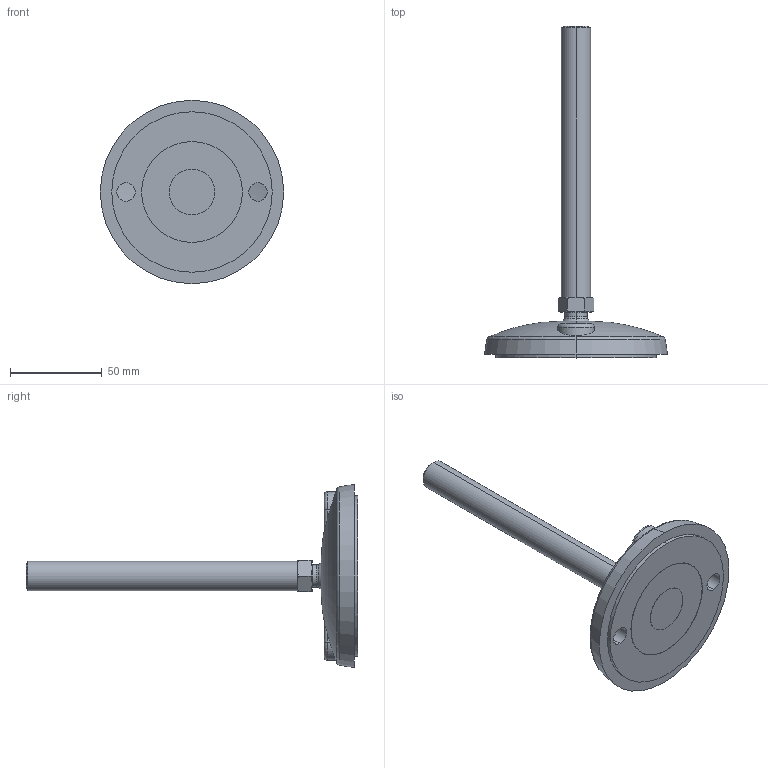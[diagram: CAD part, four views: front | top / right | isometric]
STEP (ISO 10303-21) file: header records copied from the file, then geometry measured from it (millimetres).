
FILE_DESCRIPTION (( 'STEP AP214' ), '1' );
FILE_NAME ('1.5025 S鳵t鐱alka D100 M16.STEP', '2025-09-17T08:19:40', ( '' ), ( '' ), 'SwSTEP 2.0', 'SolidWorks 2025', '' );
FILE_SCHEMA (( 'AUTOMOTIVE_DESIGN' ));
Length unit declared in the file: millimetre
Products named in the file (1): 1.5025 Säätöjalka D100 M16
Bounding box: 100 x 181 x 100 mm (x, y, z)
Volume: 149512.2 mm3; surface area: 28450.4 mm2
Topology: 1 solids, 1 shells, 73 faces, 159 edges, 96 vertices
Faces by surface type: cylinder 24, plane 20, cone 18, torus 11
Entity records: 2868 total; most frequent: CARTESIAN_POINT 819, DIRECTION 340, ORIENTED_EDGE 318, EDGE_CURVE 159, AXIS2_PLACEMENT_3D 149, VERTEX_POINT 96, EDGE_LOOP 81, CIRCLE 75
